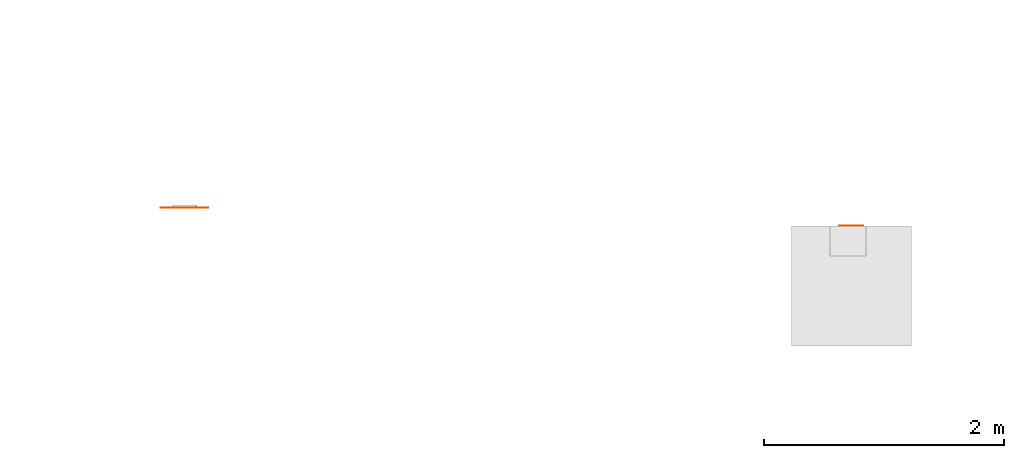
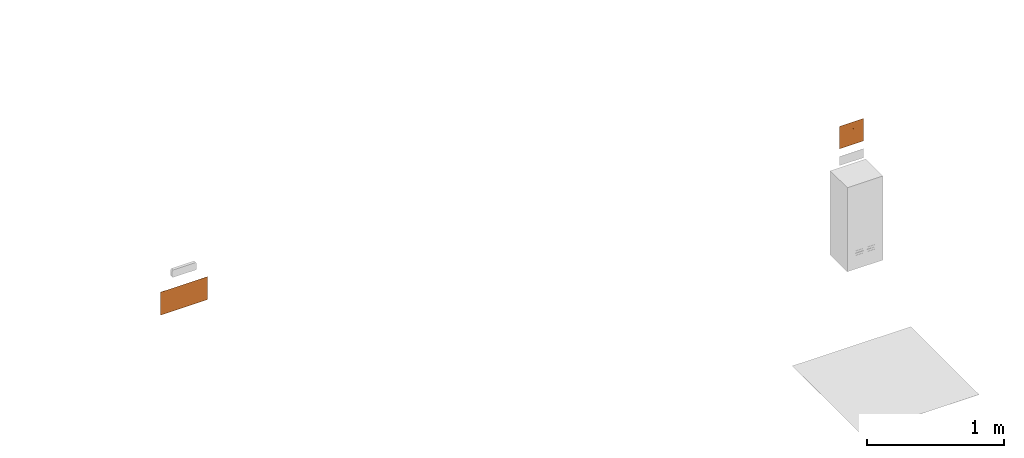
# One storey, part 113 of 119: 2 proxies.
"""IFC2X3 building model written with IfcOpenShell, lengths in metres."""

import ifcopenshell
import ifcopenshell.guid

model = None  # the IFC model being written
_history = None  # IfcOwnerHistory: only IFC2X3 demands one
_inside = {}  # id of a spatial element -> (the spatial element, [elements in it])
_under = {}  # id of a project, library or spatial element -> (it, [spatial elements below it])
_declared = {}  # id of a project -> (the project, [libraries it declares])
_typed = {}  # id of a type object -> (the type object, [elements of that type])
_made_of = {}  # id of a material, layer set ... -> (it, [elements and type objects made of it])


def new_model(schema):
    """Start an empty IFC model of exactly this schema.

    Asked for "IFC4X3", IfcOpenShell would pick the latest addendum, in which some entities
    have other attributes; the version numbers below select the first issue.
    IFC2X3 requires an IfcOwnerHistory on every rooted entity: one is made here for all.
    """
    global model, _history
    if schema == "IFC4X3":
        model = ifcopenshell.file(schema_version=(4, 3, 0, 0))
    else:
        model = ifcopenshell.file(schema=schema)
    _inside.clear()
    _under.clear()
    _declared.clear()
    _typed.clear()
    _made_of.clear()
    _history = None
    if model.schema == "IFC2X3":
        org = make("IfcOrganization", Name="unknown")
        user = make(
            "IfcPersonAndOrganization",
            ThePerson=make("IfcPerson", FamilyName="unknown"),
            TheOrganization=org,
        )
        app = make(
            "IfcApplication",
            ApplicationDeveloper=org,
            Version="unknown",
            ApplicationFullName="unknown",
            ApplicationIdentifier="unknown",
        )
        _history = make(
            "IfcOwnerHistory",
            OwningUser=user,
            OwningApplication=app,
            ChangeAction="ADDED",
            CreationDate=0,
        )
    return model


def make(cls, **values):
    """One entity of the class cls with the attributes given. An attribute that is None is left unset."""
    return model.create_entity(
        cls, **{name: value for name, value in values.items() if value is not None}
    )


def entity(cls, *values):
    """Any entity or typed value of the class cls, its attributes in the order of the schema. None: left unset."""
    e = model.create_entity(cls)
    for i, value in enumerate(values):
        if value is not None:
            e[i] = value
    return e


def rooted(cls, **values):
    """An entity with a GlobalId (a new one), such as an element, a storey or a relation."""
    return make(cls, GlobalId=ifcopenshell.guid.new(), OwnerHistory=_history, **values)


def si_unit(unit_type, name, prefix=None):
    """IfcSIUnit, for example si_unit("LENGTHUNIT", "METRE", prefix="MILLI")."""
    return make("IfcSIUnit", UnitType=unit_type, Prefix=prefix, Name=name)


def converted_unit(unit_type, name, factor, base, dimensions=None, offset=None):
    """IfcConversionBasedUnit, such as the inch: factor (a typed value) times the base unit."""
    return make(
        "IfcConversionBasedUnit"
        if offset is None
        else "IfcConversionBasedUnitWithOffset",
        ConversionOffset=offset,
        Dimensions=None
        if dimensions is None
        else entity("IfcDimensionalExponents", *dimensions),
        UnitType=unit_type,
        Name=name,
        ConversionFactor=make(
            "IfcMeasureWithUnit", ValueComponent=factor, UnitComponent=base
        ),
    )


def derived_unit(unit_type, elements):
    """IfcDerivedUnit: a product of units, each with its exponent."""
    return make(
        "IfcDerivedUnit",
        Elements=[
            make("IfcDerivedUnitElement", Unit=unit, Exponent=power)
            for unit, power in elements
        ],
        UnitType=unit_type,
    )


def assignment(units):
    """IfcUnitAssignment: the units of a project."""
    return None if units is None else make("IfcUnitAssignment", Units=units)


def point(xyz):
    """IfcCartesianPoint."""
    return None if xyz is None else make("IfcCartesianPoint", Coordinates=xyz)


def direction(xyz):
    """IfcDirection."""
    return None if xyz is None else make("IfcDirection", DirectionRatios=xyz)


def frame(location, z_axis=None, x_axis=None):
    """IfcAxis2Placement3D, a coordinate frame: its origin and axes. An axis left out is left unset."""
    return make(
        "IfcAxis2Placement3D",
        Location=point(location),
        Axis=direction(z_axis),
        RefDirection=direction(x_axis),
    )


def frame_2d(location, x_axis=None):
    """IfcAxis2Placement2D, a coordinate frame in the plane: its origin and x axis."""
    return make(
        "IfcAxis2Placement2D", Location=point(location), RefDirection=direction(x_axis)
    )


def origin():
    """The frame at (0, 0, 0) with its axes left unset."""
    return frame((0.0, 0.0, 0.0))


def origin_2d_with_axis():
    """The frame at (0, 0) in the plane with the x axis (1, 0) written out."""
    return frame_2d((0.0, 0.0), x_axis=(1.0, 0.0))


def place(relative_to, where):
    """IfcLocalPlacement: puts the frame where relative to a parent placement (None: the world)."""
    return make(
        "IfcLocalPlacement", PlacementRelTo=relative_to, RelativePlacement=where
    )


def context(
    kind, dimensions, precision=None, world=None, true_north=None, identifier=None
):
    """IfcGeometricRepresentationContext, for example the 3D "Model" context."""
    return make(
        "IfcGeometricRepresentationContext",
        ContextIdentifier=identifier,
        ContextType=kind,
        CoordinateSpaceDimension=dimensions,
        Precision=precision,
        WorldCoordinateSystem=world,
        TrueNorth=true_north,
    )


def subcontext(parent, identifier, kind, view, scale=None):
    """IfcGeometricRepresentationSubContext, for example "Body" below "Model"."""
    return make(
        "IfcGeometricRepresentationSubContext",
        ContextIdentifier=identifier,
        ContextType=kind,
        ParentContext=parent,
        TargetScale=scale,
        TargetView=view,
    )


def project(units=None, contexts=None):
    """IfcProject with its units and contexts."""
    return rooted(
        "IfcProject",
        Name="project",
        RepresentationContexts=contexts,
        UnitsInContext=assignment(units),
    )


def spatial(cls, under=None, at=None, **own):
    """A site, building, storey or space (cls), placed at a placement, below another one or the project."""
    s = rooted(cls, ObjectPlacement=at, **own)
    if under is not None:
        _under.setdefault(under.id(), (under, []))[1].append(s)
    return s


def polyline(points):
    """IfcPolyline through the points."""
    return make("IfcPolyline", Points=[point(p) for p in points])


def circle_curve(where, radius):
    """IfcCircle in the frame where."""
    return make("IfcCircle", Position=where, Radius=radius)


def parameter(value):
    """IfcParameterValue: where a trimmed curve begins or ends, as a parameter of its basis curve."""
    return model.create_entity("IfcParameterValue", value)


def trimmed(basis, trim1, trim2, sense, master):
    """IfcTrimmedCurve: the piece of a basis curve between two trims."""
    return make(
        "IfcTrimmedCurve",
        BasisCurve=basis,
        Trim1=trim1,
        Trim2=trim2,
        SenseAgreement=sense,
        MasterRepresentation=master,
    )


def segment(curve, same_sense, transition):
    """IfcCompositeCurveSegment."""
    return make(
        "IfcCompositeCurveSegment",
        Transition=transition,
        SameSense=same_sense,
        ParentCurve=curve,
    )


def composite_curve(segments, self_intersect=None):
    """IfcCompositeCurve: segments joined end to end."""
    return make("IfcCompositeCurve", Segments=segments, SelfIntersect=self_intersect)


def profile(cls, at=None, kind="AREA", **sizes):
    """A parametric profile (cls). Its sizes go by their IFC names, for example OverallWidth=200.0."""
    return make(cls, ProfileType=kind, Position=at, **sizes)


def rectangle(**sizes):
    """IfcRectangleProfileDef."""
    return profile("IfcRectangleProfileDef", **sizes)


def outline(outer, holes=None, kind="AREA"):
    """IfcArbitraryClosedProfileDef: a profile drawn as a closed curve; with holes, ...WithVoids."""
    if holes is None:
        return make("IfcArbitraryClosedProfileDef", ProfileType=kind, OuterCurve=outer)
    return make(
        "IfcArbitraryProfileDefWithVoids",
        ProfileType=kind,
        OuterCurve=outer,
        InnerCurves=holes,
    )


def extrude(swept, where, along, depth):
    """IfcExtrudedAreaSolid: the profile swept, set in the frame where, extruded along a direction by depth."""
    return make(
        "IfcExtrudedAreaSolid",
        SweptArea=swept,
        Position=where,
        ExtrudedDirection=direction(along),
        Depth=depth,
    )


def shape(context_of_items, identifier, shape_type, items):
    """IfcShapeRepresentation: the items that make up one representation, for example the "Body"."""
    return make(
        "IfcShapeRepresentation",
        ContextOfItems=context_of_items,
        RepresentationIdentifier=identifier,
        RepresentationType=shape_type,
        Items=items,
    )


def source(mapping_origin, context_of_items, identifier, shape_type, items):
    """IfcRepresentationMap: a shape defined once, which mapped items show again and again."""
    return make(
        "IfcRepresentationMap",
        MappingOrigin=mapping_origin,
        MappedRepresentation=shape(context_of_items, identifier, shape_type, items),
    )


def transform(
    local_origin,
    x_axis=None,
    y_axis=None,
    z_axis=None,
    scale=None,
    scale2=None,
    scale3=None,
    uniform=True,
):
    """IfcCartesianTransformationOperator3D, or its non-uniform kind. x_axis, y_axis, z_axis: its Axis1, 2, 3."""
    if uniform:
        return make(
            "IfcCartesianTransformationOperator3D",
            Axis1=direction(x_axis),
            Axis2=direction(y_axis),
            LocalOrigin=point(local_origin),
            Scale=scale,
            Axis3=direction(z_axis),
        )
    return make(
        "IfcCartesianTransformationOperator3DnonUniform",
        Axis1=direction(x_axis),
        Axis2=direction(y_axis),
        LocalOrigin=point(local_origin),
        Scale=scale,
        Axis3=direction(z_axis),
        Scale2=scale2,
        Scale3=scale3,
    )


def mapped(mapping_source, mapping_target):
    """IfcMappedItem: shows the shape of a source again, moved by a transform."""
    return make(
        "IfcMappedItem", MappingSource=mapping_source, MappingTarget=mapping_target
    )


def material(Name=None, Category=None):
    """IfcMaterial."""
    return make("IfcMaterial", Name=Name, Category=Category)


def material_list(materials):
    """IfcMaterialList."""
    return make("IfcMaterialList", Materials=materials)


def made_of(thing, what):
    """Note that an element or type object is made of a material, layer set ...; save() writes the relation."""
    if what is not None:
        _made_of.setdefault(what.id(), (what, []))[1].append(thing)
    return thing


def type_object(cls, material=None, **own):
    """A type object (cls), such as IfcWallType, which elements share."""
    return made_of(rooted(cls, **own), material)


def type_shapes(of_type, sources):
    """Give a type object the sources (RepresentationMaps) that its elements show as mapped items."""
    of_type.RepresentationMaps = sources


def element(
    cls,
    number,
    at=None,
    inside=None,
    cuts=None,
    type_object=None,
    material=None,
    context=None,
    identifier="Body",
    shape_type=None,
    held_by="IfcProductDefinitionShape",
    body=None,
    shapes=None,
    **own,
):
    """One element of the class cls, such as IfcWall. Its Tag is "e" and its number.

    at: its placement. inside: the storey or other place that contains it. cuts: it is an
    opening in that element (IfcRelVoidsElement). A single representation is given by context,
    identifier, shape_type and body (its items); several are given by shapes. held_by: the class
    of the entity that holds the representations. save() writes the other relations.
    """
    e = rooted(cls, Tag="e%d" % number, ObjectPlacement=at, **own)
    if body is not None:
        shapes = [shape(context, identifier, shape_type, body)]
    if shapes is not None:
        e.Representation = make(held_by, Representations=shapes)
    if inside is not None:
        _inside.setdefault(inside.id(), (inside, []))[1].append(e)
    if cuts is not None:
        rooted(
            "IfcRelVoidsElement", RelatingBuildingElement=cuts, RelatedOpeningElement=e
        )
    if type_object is not None:
        _typed.setdefault(type_object.id(), (type_object, []))[1].append(e)
    return made_of(e, material)


def aggregate(whole, parts):
    """IfcRelAggregates: a whole, such as a stair, and the parts it consists of."""
    return rooted("IfcRelAggregates", RelatingObject=whole, RelatedObjects=parts)


def save(model, path):
    """Write the relations noted so far, then the file.

    IfcRelAggregates (storeys below a building ...), IfcRelContainedInSpatialStructure (elements
    in a storey), IfcRelDefinesByType, IfcRelAssociatesMaterial and IfcRelDeclares: one each for
    every whole, place, type object, material and project.
    """
    for whole, parts in _under.values():
        aggregate(whole, parts)
    for where, things in _inside.values():
        rooted(
            "IfcRelContainedInSpatialStructure",
            RelatedElements=things,
            RelatingStructure=where,
        )
    for kind, things in _typed.values():
        rooted("IfcRelDefinesByType", RelatedObjects=things, RelatingType=kind)
    for what, things in _made_of.values():
        rooted("IfcRelAssociatesMaterial", RelatedObjects=things, RelatingMaterial=what)
    for by, libraries in _declared.values():
        rooted("IfcRelDeclares", RelatingContext=by, RelatedDefinitions=libraries)
    model.write(path)


model = new_model("IFC2X3")

# Units and contexts
model_context = context("Model", 3, precision=1e-05, world=origin(), true_north=direction((6.12303176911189e-17, 1.0)))
body_context = subcontext(model_context, "Body", "Model", "MODEL_VIEW")
ifc_project = project(units=[si_unit("LENGTHUNIT", "METRE"), si_unit("AREAUNIT", "SQUARE_METRE"), si_unit("VOLUMEUNIT", "CUBIC_METRE"), converted_unit("PLANEANGLEUNIT", "DEGREE", entity("IfcRatioMeasure", 0.0174532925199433), si_unit("PLANEANGLEUNIT", "RADIAN"), dimensions=[0, 0, 0, 0, 0, 0, 0]), si_unit("MASSUNIT", "GRAM", prefix="KILO"), derived_unit("MASSDENSITYUNIT", [(si_unit("MASSUNIT", "GRAM", prefix="KILO"), 1), (si_unit("LENGTHUNIT", "METRE"), -3)]), derived_unit("MOMENTOFINERTIAUNIT", [(si_unit("LENGTHUNIT", "METRE"), 4)]), si_unit("TIMEUNIT", "SECOND"), si_unit("FREQUENCYUNIT", "HERTZ"), si_unit("THERMODYNAMICTEMPERATUREUNIT", "DEGREE_CELSIUS"), derived_unit("THERMALTRANSMITTANCEUNIT", [(si_unit("MASSUNIT", "GRAM", prefix="KILO"), 1), (si_unit("THERMODYNAMICTEMPERATUREUNIT", "KELVIN"), -1), (si_unit("TIMEUNIT", "SECOND"), -3)]), derived_unit("VOLUMETRICFLOWRATEUNIT", [(si_unit("LENGTHUNIT", "METRE"), 3), (si_unit("TIMEUNIT", "SECOND"), -1)]), si_unit("ELECTRICCURRENTUNIT", "AMPERE"), si_unit("ELECTRICVOLTAGEUNIT", "VOLT"), si_unit("POWERUNIT", "WATT"), si_unit("FORCEUNIT", "NEWTON", prefix="KILO"), si_unit("ILLUMINANCEUNIT", "LUX"), si_unit("LUMINOUSFLUXUNIT", "LUMEN"), si_unit("LUMINOUSINTENSITYUNIT", "CANDELA"), derived_unit("USERDEFINED", [(si_unit("MASSUNIT", "GRAM", prefix="KILO"), -1), (si_unit("LENGTHUNIT", "METRE"), -2), (si_unit("TIMEUNIT", "SECOND"), 3), (si_unit("LUMINOUSFLUXUNIT", "LUMEN"), 1)]), derived_unit("LINEARVELOCITYUNIT", [(si_unit("LENGTHUNIT", "METRE"), 1), (si_unit("TIMEUNIT", "SECOND"), -1)]), si_unit("PRESSUREUNIT", "PASCAL"), derived_unit("USERDEFINED", [(si_unit("LENGTHUNIT", "METRE"), -2), (si_unit("MASSUNIT", "GRAM", prefix="KILO"), 1), (si_unit("TIMEUNIT", "SECOND"), -2)]), derived_unit("LINEARFORCEUNIT", [(si_unit("MASSUNIT", "GRAM", prefix="KILO"), 1), (si_unit("LENGTHUNIT", "METRE"), 1), (si_unit("TIMEUNIT", "SECOND"), -2), (si_unit("LENGTHUNIT", "METRE"), -1)]), derived_unit("PLANARFORCEUNIT", [(si_unit("MASSUNIT", "GRAM", prefix="KILO"), 1), (si_unit("LENGTHUNIT", "METRE"), 1), (si_unit("TIMEUNIT", "SECOND"), -2), (si_unit("LENGTHUNIT", "METRE"), -2)])], contexts=[model_context])

# Site, building, storey
site_placement = place(None, origin())
site = spatial("IfcSite", under=ifc_project, at=site_placement, Name="Default", CompositionType="ELEMENT")
building_placement = place(site_placement, origin())
building = spatial("IfcBuilding", under=site, at=building_placement, CompositionType="ELEMENT")
storey_placement = place(building_placement, origin())
storey = spatial("IfcBuildingStorey", under=building, at=storey_placement, Name="PAV. 01 - TÉRREO", CompositionType="ELEMENT", Elevation=0.0)

# Proxies
ifc_material_1 = material(Name="Plastico branco")
ifc_material_2 = material(Name="Plastico vermelho")
ifc_material_list_1 = material_list([ifc_material_1, ifc_material_2])
building_element_proxy_type_1 = type_object("IfcBuildingElementProxyType", Name="Sinalização de equipamentos - E05 - Extintor de incêndio:Distância 08m", PredefinedType="NOTDEFINED", material=ifc_material_1)
shared_shape_1 = source(origin(), body_context, "Body", "SweptSolid", [
    extrude(outline(composite_curve([segment(polyline([(-0.039533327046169, -0.0988107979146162), (0.0136590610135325, -0.0988107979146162)]), True, "CONTINUOUS"), segment(polyline([(0.0136590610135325, -0.0988107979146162), (0.0136590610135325, -0.0150548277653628)]), True, "CONTINUOUS"), segment(polyline([(0.0136590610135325, -0.0150548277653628), (0.0132403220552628, -0.0112272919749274)]), True, "CONTINUOUS"), segment(polyline([(0.0132403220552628, -0.0112272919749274), (0.0119841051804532, -0.00798860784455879)]), True, "CONTINUOUS"), segment(polyline([(0.0119841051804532, -0.00798860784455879), (0.00989041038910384, -0.00533877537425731)]), True, "CONTINUOUS"), segment(polyline([(0.00989041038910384, -0.00533877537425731), (0.00695923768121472, -0.00327779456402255)]), True, "CONTINUOUS"), segment(polyline([(0.00695923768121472, -0.00327779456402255), (0.00319058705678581, -0.00180566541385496)]), True, "CONTINUOUS"), segment(polyline([(0.00319058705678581, -0.00180566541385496), (-0.00141554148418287, -0.000922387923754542)]), True, "CONTINUOUS"), segment(polyline([(-0.00141554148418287, -0.000922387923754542), (-0.00685914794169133, -0.000627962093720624)]), True, "CONTINUOUS"), segment(polyline([(-0.00685914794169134, -0.000627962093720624), (-0.00685914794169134, 0.00837547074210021)]), True, "CONTINUOUS"), segment(polyline([(-0.00685914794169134, 0.00837547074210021), (0.000568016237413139, 0.00837547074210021)]), True, "CONTINUOUS"), segment(polyline([(0.000568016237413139, 0.00837547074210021), (0.021500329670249, -0.0075875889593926)]), True, "CONTINUOUS"), segment(polyline([(0.021500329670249, -0.0075875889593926), (0.021500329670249, -0.0104328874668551)]), True, "CONTINUOUS"), segment(polyline([(0.021500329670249, -0.0104328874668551), (0.0245059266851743, -0.0104328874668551)]), True, "CONTINUOUS"), segment(polyline([(0.0245059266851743, -0.0104328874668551), (0.0245059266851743, -0.00811335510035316)]), True, "CONTINUOUS"), segment(polyline([(0.0245059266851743, -0.00811335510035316), (0.0243642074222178, -0.00545038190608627)]), True, "CONTINUOUS"), segment(polyline([(0.0243642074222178, -0.00545038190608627), (0.0239570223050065, -0.0032112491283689)]), True, "CONTINUOUS"), segment(polyline([(0.0239570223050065, -0.0032112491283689), (0.0233113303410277, -0.00132119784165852)]), True, "CONTINUOUS"), segment(polyline([(0.0233113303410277, -0.00132119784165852), (0.0224540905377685, 0.00029453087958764)]), True, "CONTINUOUS"), segment(polyline([(0.0224540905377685, 0.00029453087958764), (0.0214122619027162, 0.00171069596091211)]), True, "CONTINUOUS"), segment(polyline([(0.0214122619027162, 0.00171069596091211), (0.0202128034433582, 0.00300205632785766)]), True, "CONTINUOUS"), segment(polyline([(0.0202128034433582, 0.00300205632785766), (0.0188826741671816, 0.00424337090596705)]), True, "CONTINUOUS"), segment(polyline([(0.0188826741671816, 0.00424337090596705), (0.0144021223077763, 0.00811180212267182)]), True, "CONTINUOUS"), segment(polyline([(0.0144021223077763, 0.00811180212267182), (0.0113518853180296, 0.0106145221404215)]), True, "CONTINUOUS"), segment(polyline([(0.0113518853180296, 0.0106145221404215), (0.0085825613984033, 0.0127576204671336)]), True, "CONTINUOUS"), segment(polyline([(0.0085825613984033, 0.0127576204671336), (0.00738733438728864, 0.0136170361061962)]), True, "CONTINUOUS"), segment(polyline([(0.00738733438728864, 0.0136170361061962), (0.00631521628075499, 0.0143235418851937)]), True, "CONTINUOUS"), segment(polyline([(0.00631521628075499, 0.0143235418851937), (0.00532850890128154, 0.0148903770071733)]), True, "CONTINUOUS"), segment(polyline([(0.00532850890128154, 0.0148903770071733), (0.00438926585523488, 0.0153309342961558)]), True, "CONTINUOUS"), segment(polyline([(0.00438926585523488, 0.0153309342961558), (0.00345954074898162, 0.0156586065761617)]), True, "CONTINUOUS"), segment(polyline([(0.00345954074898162, 0.0156586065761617), (0.00250138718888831, 0.0158867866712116)]), True, "CONTINUOUS"), segment(polyline([(0.00250138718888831, 0.0158867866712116), (0.00144087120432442, 0.0160289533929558)]), True, "CONTINUOUS"), segment(polyline([(0.00144087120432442, 0.0160289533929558), (-0.000108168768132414, 0.0160993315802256)]), True, "CONTINUOUS"), segment(polyline([(-0.000108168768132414, 0.0160993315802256), (-0.00685914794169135, 0.0160831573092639)]), True, "CONTINUOUS"), segment(polyline([(-0.00685914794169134, 0.0160831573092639), (-0.00685914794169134, 0.0213863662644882)]), True, "CONTINUOUS"), segment(polyline([(-0.00685914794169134, 0.0213863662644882), (-0.0177728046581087, 0.0213863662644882)]), True, "CONTINUOUS"), segment(polyline([(-0.0177728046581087, 0.0213863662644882), (-0.0177728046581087, 0.0160831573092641)]), True, "CONTINUOUS"), segment(polyline([(-0.0177728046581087, 0.0160831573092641), (-0.0288467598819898, 0.0160831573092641)]), True, "CONTINUOUS"), segment(trimmed(circle_curve(frame_2d((-0.0288467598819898, 0.0122293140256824), x_axis=(-1.0, 0.0)), 0.00385384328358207), [parameter(270.0)], [parameter(90.0000000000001)], True, "PARAMETER"), True, "CONTINUOUS"), segment(polyline([(-0.0288467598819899, 0.00837547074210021), (-0.0190151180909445, 0.00837547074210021)]), True, "CONTINUOUS"), segment(polyline([(-0.0190151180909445, 0.00837547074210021), (-0.0190151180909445, -0.000627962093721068)]), True, "CONTINUOUS"), segment(polyline([(-0.0190151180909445, -0.000627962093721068), (-0.024458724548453, -0.000922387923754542)]), True, "CONTINUOUS"), segment(polyline([(-0.024458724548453, -0.000922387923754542), (-0.0290648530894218, -0.00180566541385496)]), True, "CONTINUOUS"), segment(polyline([(-0.0290648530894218, -0.00180566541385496), (-0.0328335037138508, -0.00327779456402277)]), True, "CONTINUOUS"), segment(polyline([(-0.0328335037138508, -0.00327779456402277), (-0.03576467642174, -0.00533877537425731)]), True, "CONTINUOUS"), segment(polyline([(-0.03576467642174, -0.00533877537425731), (-0.0378583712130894, -0.00798860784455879)]), True, "CONTINUOUS"), segment(polyline([(-0.0378583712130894, -0.00798860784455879), (-0.0391145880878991, -0.0112272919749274)]), True, "CONTINUOUS"), segment(polyline([(-0.0391145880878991, -0.0112272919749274), (-0.039533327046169, -0.0150548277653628)]), True, "CONTINUOUS"), segment(polyline([(-0.039533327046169, -0.0150548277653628), (-0.039533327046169, -0.0988107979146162)]), True, "CONTINUOUS")], self_intersect=False)), frame((-0.0129371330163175, -0.0011, 1.94006139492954), z_axis=(0.0, 1.0, 0.0), x_axis=(-1.0, 0.0, 0.0)), (0.0, 0.0, 1.0), 0.0011),
    extrude(rectangle(XDim=0.001, YDim=0.179, at=origin_2d_with_axis()), frame((0.0, -0.0005, 1.8105), z_axis=(0.0, 0.0, 1.0), x_axis=(0.0, 1.0, 0.0)), (0.0, 0.0, 1.0), 0.179),
    extrude(outline(polyline([(-0.100000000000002, -0.1), (0.100000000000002, -0.1), (0.100000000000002, 0.1), (-0.100000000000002, 0.1), (-0.100000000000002, -0.1)]), holes=[polyline([(-0.0895000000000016, -0.0895000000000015), (-0.0895000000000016, 0.0894999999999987), (0.0894999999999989, 0.0894999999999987), (0.0894999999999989, -0.0895000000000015), (-0.0895000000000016, -0.0895000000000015)])]), frame((0.0, -0.001, 1.9), z_axis=(0.0, 1.0, 0.0), x_axis=(0.0, 0.0, -1.0)), (0.0, 0.0, 1.0), 0.001),
])
type_shapes(building_element_proxy_type_1, [shared_shape_1])
proxy_1_placement = place(storey_placement, frame((19.8240605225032, 66.8067778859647, 0.0)))
element("IfcBuildingElementProxy", 1, at=proxy_1_placement, inside=storey, type_object=building_element_proxy_type_1, material=ifc_material_list_1, Name="Sinalização de equipamentos - E05 - Extintor de incêndio:Distância 08m", ObjectType="Sinalização de equipamentos - E05 - Extintor de incêndio:Distância 08m", context=body_context, shape_type="MappedRepresentation", body=[
    mapped(shared_shape_1, transform((0.0, 0.0, 0.0), scale=1.0)),
])
ifc_material_3 = material(Name="Plastico Verde")
ifc_material_list_2 = material_list([ifc_material_1, ifc_material_3])
building_element_proxy_type_2 = type_object("IfcBuildingElementProxyType", Name="Sinalização de orientação - S12 - Saída de emergência:Distância 12m", PredefinedType="NOTDEFINED", material=ifc_material_1)
shared_shape_2 = source(origin(), body_context, "Body", "SweptSolid", [
    extrude(outline(polyline([(0.022665, -0.0273549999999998), (0.042445, -0.0273549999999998), (0.0110050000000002, 0.0634649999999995), (-0.0110349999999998, 0.0634649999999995), (-0.0429350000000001, -0.0273549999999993), (-0.0221550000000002, -0.0273549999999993), (-0.016355, -0.00875499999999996), (0.016365, -0.00875499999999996), (0.022665, -0.0273549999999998)]), holes=[polyline([(-0.0110349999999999, 0.00694499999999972), (8.50000000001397e-05, 0.0430049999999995), (0.011005, 0.00694499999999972), (-0.0110349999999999, 0.00694499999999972)])]), frame((0.137065, -0.0011, 2.284875), z_axis=(0.0, 1.0, 0.0), x_axis=(-1.0, 0.0, 0.0)), (0.0, 0.0, 1.0), 0.0011),
    extrude(outline(polyline([(0.00101999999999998, -0.00920000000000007), (0.01344, -0.00920000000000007), (0.00198000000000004, 0.00920000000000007), (-0.01644, 0.00920000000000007), (0.00101999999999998, -0.00920000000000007)])), frame((0.0041799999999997, -0.0011, 2.36684), z_axis=(0.0, 1.0, 0.0), x_axis=(-1.0, 0.0, 0.0)), (0.0, 0.0, 1.0), 0.0011),
    extrude(rectangle(XDim=0.0011, YDim=0.0186200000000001, at=origin_2d_with_axis()), frame((-0.00221000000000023, -0.00055, 2.25752), z_axis=(0.0, 0.0, 1.0), x_axis=(0.0, 1.0, 0.0)), (0.0, 0.0, 1.0), 0.0908200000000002),
    extrude(outline(polyline([(0.0226224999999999, -0.0273550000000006), (0.0423824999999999, -0.0273550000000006), (0.0109625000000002, 0.0634649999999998), (-0.0110974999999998, 0.0634649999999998), (-0.0425575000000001, -0.0273550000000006), (-0.0222175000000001, -0.0273550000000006), (-0.0164175, -0.0087550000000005), (0.0163224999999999, -0.0087550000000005), (0.0226224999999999, -0.0273550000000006)]), holes=[polyline([(-0.0110975, 0.00694499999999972), (2.25000000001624e-05, 0.0430049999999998), (0.0109625, 0.00694499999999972), (-0.0110975, 0.00694499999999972)])]), frame((-0.0607575, -0.0011, 2.284875), z_axis=(0.0, 1.0, 0.0), x_axis=(-1.0, 0.0, 0.0)), (0.0, 0.0, 1.0), 0.0011),
    extrude(outline(polyline([(-0.0593637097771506, -0.0416627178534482), (-0.0235037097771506, -0.0416627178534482), (-0.0155782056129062, -0.0414882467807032), (-0.00944676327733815, -0.0408437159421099), (-0.00458257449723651, -0.0395474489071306), (-0.000458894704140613, -0.0374178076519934), (0.00332259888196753, -0.0343505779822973), (0.00676252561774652, -0.0304813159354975), (0.00978475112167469, -0.0259918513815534), (0.0123131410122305, -0.0210640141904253), (0.0142715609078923, -0.0158796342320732), (0.0156118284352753, -0.0106067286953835), (0.0164003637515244, -0.00535668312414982), (0.0167329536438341, -0.000226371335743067), (0.0167053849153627, 0.00468733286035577), (0.0164134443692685, 0.00928755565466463), (0.015941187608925, 0.013495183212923), (0.015248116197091, 0.0174196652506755), (0.0142186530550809, 0.0212841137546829), (0.0127361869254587, 0.0253132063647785), (0.0106841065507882, 0.0297316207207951), (0.00791520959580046, 0.0347197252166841), (0.00390106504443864, 0.0399057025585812), (-0.00214544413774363, 0.0445430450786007), (-0.0110163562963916, 0.0478781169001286), (-0.0235037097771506, 0.0491572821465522), (-0.0593637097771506, 0.0491572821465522), (-0.0593637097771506, -0.0416627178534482)]), holes=[polyline([(-0.0407237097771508, 0.0334572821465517), (-0.0235037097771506, 0.0334572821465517), (-0.0184804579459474, 0.0328719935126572), (-0.0143606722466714, 0.0313003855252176), (-0.01104861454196, 0.0290188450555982), (-0.00844854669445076, 0.0263037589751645), (-0.00646492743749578, 0.0234093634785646), (-0.00500366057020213, 0.0204273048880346), (-0.00397129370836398, 0.0173767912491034), (-0.00327437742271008, 0.0142766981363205), (-0.00281946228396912, 0.011145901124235), (-0.00251671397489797, 0.00800245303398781), (-0.00233816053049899, 0.0048503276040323), (-0.0023077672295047, 0.00168167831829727), (-0.00245111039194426, -0.00151170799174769), (-0.00279376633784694, -0.00473804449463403), (-0.00336131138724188, -0.00800554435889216), (-0.00418197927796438, -0.011308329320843), (-0.0053013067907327, -0.014548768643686), (-0.00677175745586, -0.0175925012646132), (-0.00864581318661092, -0.020305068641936), (-0.0109759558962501, -0.022552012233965), (-0.0137994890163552, -0.0242105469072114), (-0.0169857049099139, -0.0252871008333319), (-0.0202993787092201, -0.0258684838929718), (-0.0235037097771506, -0.0260427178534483), (-0.0407237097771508, -0.0260427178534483), (-0.0407237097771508, 0.0334572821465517)])]), frame((0.0799837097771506, -0.0011, 2.30667728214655), z_axis=(0.0, 1.0, 0.0), x_axis=(1.0, 0.0, 0.0)), (0.0, 0.0, 1.0), 0.0011),
    extrude(outline(polyline([(-0.0345626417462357, 0.0187657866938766), (-0.0167626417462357, 0.0187657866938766), (-0.0160026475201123, 0.021720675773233), (-0.0150953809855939, 0.0241733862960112), (-0.0140440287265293, 0.0261781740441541), (-0.012851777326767, 0.0277892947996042), (-0.0115218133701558, 0.0290610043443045), (-0.0100573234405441, 0.0300475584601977), (-0.00846149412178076, 0.0308032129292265), (-0.00673751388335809, 0.0313822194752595), (-0.00489394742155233, 0.0318272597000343), (-0.00295651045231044, 0.0321441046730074), (-0.000954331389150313, 0.0323311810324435), (0.00108346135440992, 0.0323869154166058), (0.00312773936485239, 0.0323097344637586), (0.00514937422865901, 0.0320980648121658), (0.00711923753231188, 0.031750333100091), (0.00900820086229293, 0.0312649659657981), (0.010785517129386, 0.0306342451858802), (0.0124132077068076, 0.0298229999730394), (0.0138512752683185, 0.0287883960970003), (0.0150597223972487, 0.0274875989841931), (0.0159985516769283, 0.0258777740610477), (0.0166277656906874, 0.023916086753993), (0.016907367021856, 0.0215597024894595), (0.0167973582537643, 0.0187657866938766), (0.0162828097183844, 0.0172001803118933), (0.015351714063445, 0.0158433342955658), (0.0140362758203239, 0.0146686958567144), (0.0123686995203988, 0.013649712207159), (0.0103811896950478, 0.0127598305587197), (0.00810595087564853, 0.0119724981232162), (0.0055751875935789, 0.0112611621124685), (0.00282110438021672, 0.0105992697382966), (-0.0097799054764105, 0.00791382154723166), (-0.0131404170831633, 0.0070931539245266), (-0.0164874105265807, 0.00615022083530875), (-0.0197677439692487, 0.00505251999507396), (-0.0229282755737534, 0.00376754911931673), (-0.0259158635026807, 0.00226280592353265), (-0.0286773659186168, 0.000505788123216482), (-0.0311596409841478, -0.00153600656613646), (-0.0333095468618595, -0.00389508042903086), (-0.0350739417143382, -0.00660393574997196), (-0.0363996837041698, -0.00969507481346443), (-0.0372336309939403, -0.0132009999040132), (-0.0375226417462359, -0.0171542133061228), (-0.0369526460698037, -0.0241320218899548), (-0.0352963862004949, -0.0300763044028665), (-0.0326321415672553, -0.0350438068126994), (-0.0290381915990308, -0.0390912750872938), (-0.0245928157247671, -0.0422754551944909), (-0.0193742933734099, -0.0446530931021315), (-0.0134609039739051, -0.0462809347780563), (-0.00693092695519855, -0.0472157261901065), (0.000137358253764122, -0.0475142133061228), (0.00635452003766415, -0.0471678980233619), (0.0122978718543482, -0.0461110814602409), (0.0178453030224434, -0.0443239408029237), (0.0228747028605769, -0.0417866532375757), (0.0272639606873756, -0.0384793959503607), (0.0308909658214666, -0.0343823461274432), (0.033633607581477, -0.0294756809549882), (0.0353697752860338, -0.0237395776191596), (0.0359773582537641, -0.0171542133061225), (0.017837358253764, -0.0171542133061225), (0.0175636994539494, -0.0202050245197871), (0.0167888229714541, -0.0228103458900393), (0.0155818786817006, -0.0250059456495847), (0.0140120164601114, -0.0268275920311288), (0.0121483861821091, -0.0283110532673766), (0.0100601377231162, -0.0294920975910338), (0.00781642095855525, -0.0304064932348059), (0.00548638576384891, -0.0310900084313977), (0.00313811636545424, -0.0315777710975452), (0.000813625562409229, -0.0318892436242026), (-0.0014720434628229, -0.0320276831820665), (-0.00370509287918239, -0.0319955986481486), (-0.0058717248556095, -0.0317954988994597), (-0.0079581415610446, -0.0314298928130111), (-0.0099505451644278, -0.0309012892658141), (-0.0118351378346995, -0.0302121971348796), (-0.0135981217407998, -0.0293651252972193), (-0.015220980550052, -0.028358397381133), (-0.0166571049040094, -0.0271654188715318), (-0.0178495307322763, -0.0257504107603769), (-0.0187412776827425, -0.0240775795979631), (-0.019275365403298, -0.0221111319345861), (-0.0193948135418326, -0.0198152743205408), (-0.019042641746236, -0.0171542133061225), (-0.0182619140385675, -0.0153706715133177), (-0.0167498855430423, -0.0138072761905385), (-0.014644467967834, -0.0124427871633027), (-0.0120835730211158, -0.0112559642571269), (-0.00920511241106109, -0.0102255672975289), (-0.00614699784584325, -0.00933035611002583), (-0.00304714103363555, -0.0085490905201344), (0.00854519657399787, -0.00601654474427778), (0.0112531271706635, -0.00536949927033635), (0.0138997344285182, -0.00465127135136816), (0.0164923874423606, -0.00382905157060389), (0.0190384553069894, -0.00287003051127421), (0.021545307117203, -0.00174139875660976), (0.024010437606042, -0.000408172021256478), (0.0263792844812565, 0.00117609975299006), (0.0285801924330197, 0.00306163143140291), (0.0305414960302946, 0.00529864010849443), (0.0321915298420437, 0.00793734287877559), (0.0334586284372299, 0.0110279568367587), (0.0342711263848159, 0.0146206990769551), (0.0345573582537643, 0.0187657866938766), (0.0342104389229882, 0.0241388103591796), (0.0331330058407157, 0.0291645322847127), (0.0312655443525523, 0.0337668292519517), (0.0285485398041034, 0.0378695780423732), (0.0249224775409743, 0.0413966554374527), (0.0203278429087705, 0.0442719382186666), (0.0147051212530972, 0.0464193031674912), (0.00799479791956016, 0.0477626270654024), (0.000137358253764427, 0.0482257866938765), (-0.00858861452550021, 0.047492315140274), (-0.0161916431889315, 0.0453797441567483), (-0.0225917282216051, 0.0420205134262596), (-0.0277088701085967, 0.0375470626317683), (-0.0314630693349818, 0.032091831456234), (-0.0337743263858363, 0.0257872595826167), (-0.0345626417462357, 0.0187657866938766)])), frame((-0.144022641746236, -0.0011, 2.30259421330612), z_axis=(0.0, 1.0, 0.0), x_axis=(-1.0, 0.0, 0.0)), (0.0, 0.0, 1.0), 0.0011),
    extrude(rectangle(XDim=0.001, YDim=0.38, at=origin_2d_with_axis()), frame((0.0, -0.0005, 2.2075), z_axis=(0.0, 0.0, 1.0), x_axis=(0.0, 1.0, 0.0)), (0.0, 0.0, 1.0), 0.190000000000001),
    extrude(outline(polyline([(-0.102500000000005, -0.197499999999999), (0.102500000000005, -0.197499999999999), (0.102500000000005, 0.197499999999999), (-0.102500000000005, 0.197499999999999), (-0.102500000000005, -0.197499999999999)]), holes=[polyline([(-0.094999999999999, -0.189999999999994), (-0.094999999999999, 0.190000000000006), (0.0950000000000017, 0.190000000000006), (0.0950000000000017, -0.189999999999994), (-0.094999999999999, -0.189999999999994)])]), frame((0.0, -0.001, 2.30250000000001), z_axis=(0.0, 1.0, 0.0), x_axis=(0.0, 0.0, -1.0)), (0.0, 0.0, 1.0), 0.001),
])
type_shapes(building_element_proxy_type_2, [shared_shape_2])
proxy_2_placement = place(storey_placement, frame((14.2740605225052, 66.9567778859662, 0.0), z_axis=(0.0, 0.0, 1.0), x_axis=(-1.0, 0.0, 0.0)))
element("IfcBuildingElementProxy", 2, at=proxy_2_placement, inside=storey, type_object=building_element_proxy_type_2, material=ifc_material_list_2, Name="Sinalização de orientação - S12 - Saída de emergência:Distância 12m", ObjectType="Sinalização de orientação - S12 - Saída de emergência:Distância 12m", context=body_context, shape_type="MappedRepresentation", body=[
    mapped(shared_shape_2, transform((0.0, 0.0, 0.0), scale=1.0)),
])

save(model, "model.ifc")
